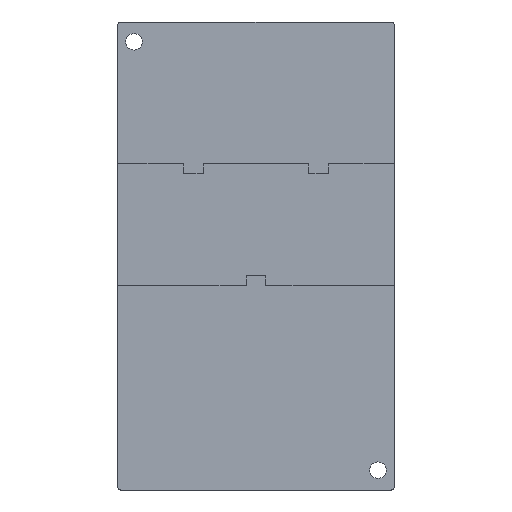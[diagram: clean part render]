
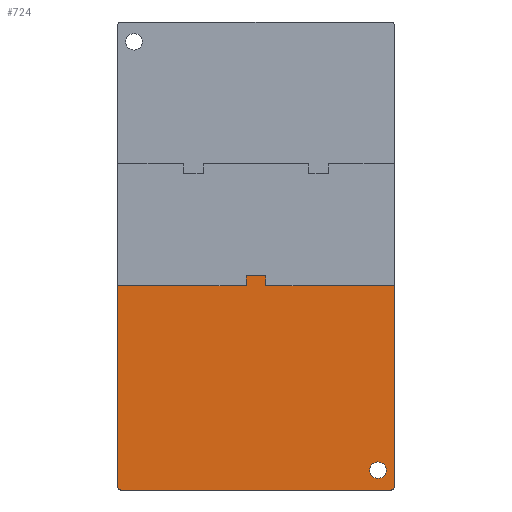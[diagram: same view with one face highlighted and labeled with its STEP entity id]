
A CAD part, left-side view. The second image highlights one B-rep face of the part: STEP entity #724.
In plain terms, the highlighted planar face has unit normal (-1, 0, 0).
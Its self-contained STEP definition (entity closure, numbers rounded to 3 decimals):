
#724=ADVANCED_FACE('',(#9918,#9920),#9922,.T.);
#9918=FACE_BOUND('',#9919,.T.);
#9919=EDGE_LOOP('',(#17139,#17140,#17141,#17142,#17143,#17144,#17145,#17146,#17147,
#17148));
#9920=FACE_BOUND('',#9921,.T.);
#9921=EDGE_LOOP('',(#17149));
#9922=PLANE('',#9923);
#9923=AXIS2_PLACEMENT_3D('',#9924,#9925,#9926);
#9924=CARTESIAN_POINT('',(-110.,0.,0.));
#9925=DIRECTION('',(-1.,0.,0.));
#9926=DIRECTION('',(0.,0.,-1.));
#17139=ORIENTED_EDGE('',*,*,#22270,.T.);
#17140=ORIENTED_EDGE('',*,*,#22271,.T.);
#17141=ORIENTED_EDGE('',*,*,#22272,.F.);
#17142=ORIENTED_EDGE('',*,*,#22273,.T.);
#17143=ORIENTED_EDGE('',*,*,#22274,.F.);
#17144=ORIENTED_EDGE('',*,*,#22012,.T.);
#17145=ORIENTED_EDGE('',*,*,#22267,.T.);
#17146=ORIENTED_EDGE('',*,*,#22275,.T.);
#17147=ORIENTED_EDGE('',*,*,#22276,.T.);
#17148=ORIENTED_EDGE('',*,*,#22277,.T.);
#17149=ORIENTED_EDGE('',*,*,#22278,.T.);
#22012=EDGE_CURVE('',#24751,#24749,#24752,.T.);
#22267=EDGE_CURVE('',#24749,#25218,#25219,.F.);
#22270=EDGE_CURVE('',#25223,#25224,#25225,.F.);
#22271=EDGE_CURVE('',#25224,#25226,#25227,.T.);
#22272=EDGE_CURVE('',#25228,#25226,#25229,.T.);
#22273=EDGE_CURVE('',#25228,#25230,#25231,.T.);
#22274=EDGE_CURVE('',#24751,#25230,#25232,.T.);
#22275=EDGE_CURVE('',#25218,#25233,#25234,.F.);
#22276=EDGE_CURVE('',#25233,#25235,#25236,.F.);
#22277=EDGE_CURVE('',#25235,#25223,#25237,.F.);
#22278=EDGE_CURVE('',#25238,#25238,#25239,.T.);
#24749=VERTEX_POINT('',#29690);
#24751=VERTEX_POINT('',#29694);
#24752=LINE('',#29695,#29696);
#25218=VERTEX_POINT('',#30788);
#25219=LINE('',#30789,#30790);
#25223=VERTEX_POINT('',#30799);
#25224=VERTEX_POINT('',#30800);
#25225=LINE('',#30801,#30802);
#25226=VERTEX_POINT('',#30804);
#25227=LINE('',#30805,#30806);
#25228=VERTEX_POINT('',#30808);
#25229=CIRCLE('',#30809,1.);
#25230=VERTEX_POINT('',#30813);
#25231=LINE('',#30814,#30815);
#25232=CIRCLE('',#30817,1.);
#25233=VERTEX_POINT('',#30821);
#25234=LINE('',#30822,#30823);
#25235=VERTEX_POINT('',#30825);
#25236=LINE('',#30826,#30827);
#25237=LINE('',#30829,#30830);
#25238=VERTEX_POINT('',#30832);
#25239=CIRCLE('',#30833,2.5);
#29690=CARTESIAN_POINT('',(-110.,-84.,-80.));
#29694=CARTESIAN_POINT('',(-110.,-84.,-141.));
#29695=CARTESIAN_POINT('',(-110.,-84.,-141.));
#29696=VECTOR('',#29697,1.);
#29697=DIRECTION('',(0.,0.,1.));
#30788=CARTESIAN_POINT('',(-110.,-45.,-80.));
#30789=CARTESIAN_POINT('',(-110.,-45.,-80.));
#30790=VECTOR('',#30791,1.);
#30791=DIRECTION('',(0.,-1.,0.));
#30799=CARTESIAN_POINT('',(-110.,-39.,-80.));
#30800=CARTESIAN_POINT('',(-110.,0.,-80.));
#30801=CARTESIAN_POINT('',(-110.,0.,-80.));
#30802=VECTOR('',#30803,1.);
#30803=DIRECTION('',(0.,-1.,0.));
#30804=CARTESIAN_POINT('',(-110.,0.,-141.));
#30805=CARTESIAN_POINT('',(-110.,0.,-80.));
#30806=VECTOR('',#30807,1.);
#30807=DIRECTION('',(0.,0.,-1.));
#30808=CARTESIAN_POINT('',(-110.,-1.,-142.));
#30809=AXIS2_PLACEMENT_3D('',#30810,#30811,#30812);
#30810=CARTESIAN_POINT('',(-110.,-1.,-141.));
#30811=DIRECTION('',(1.,0.,0.));
#30812=DIRECTION('',(0.,0.,-1.));
#30813=CARTESIAN_POINT('',(-110.,-83.,-142.));
#30814=CARTESIAN_POINT('',(-110.,-1.,-142.));
#30815=VECTOR('',#30816,1.);
#30816=DIRECTION('',(0.,-1.,0.));
#30817=AXIS2_PLACEMENT_3D('',#30818,#30819,#30820);
#30818=CARTESIAN_POINT('',(-110.,-83.,-141.));
#30819=DIRECTION('',(1.,0.,0.));
#30820=DIRECTION('',(0.,-1.,0.));
#30821=CARTESIAN_POINT('',(-110.,-45.,-77.));
#30822=CARTESIAN_POINT('',(-110.,-45.,-77.));
#30823=VECTOR('',#30824,1.);
#30824=DIRECTION('',(0.,0.,-1.));
#30825=CARTESIAN_POINT('',(-110.,-39.,-77.));
#30826=CARTESIAN_POINT('',(-110.,-39.,-77.));
#30827=VECTOR('',#30828,1.);
#30828=DIRECTION('',(0.,-1.,0.));
#30829=CARTESIAN_POINT('',(-110.,-39.,-80.));
#30830=VECTOR('',#30831,1.);
#30831=DIRECTION('',(0.,0.,1.));
#30832=CARTESIAN_POINT('',(-110.,-79.,-133.5));
#30833=AXIS2_PLACEMENT_3D('',#30834,#30835,#30836);
#30834=CARTESIAN_POINT('',(-110.,-79.,-136.));
#30835=DIRECTION('',(1.,0.,0.));
#30836=DIRECTION('',(0.,0.,1.));
